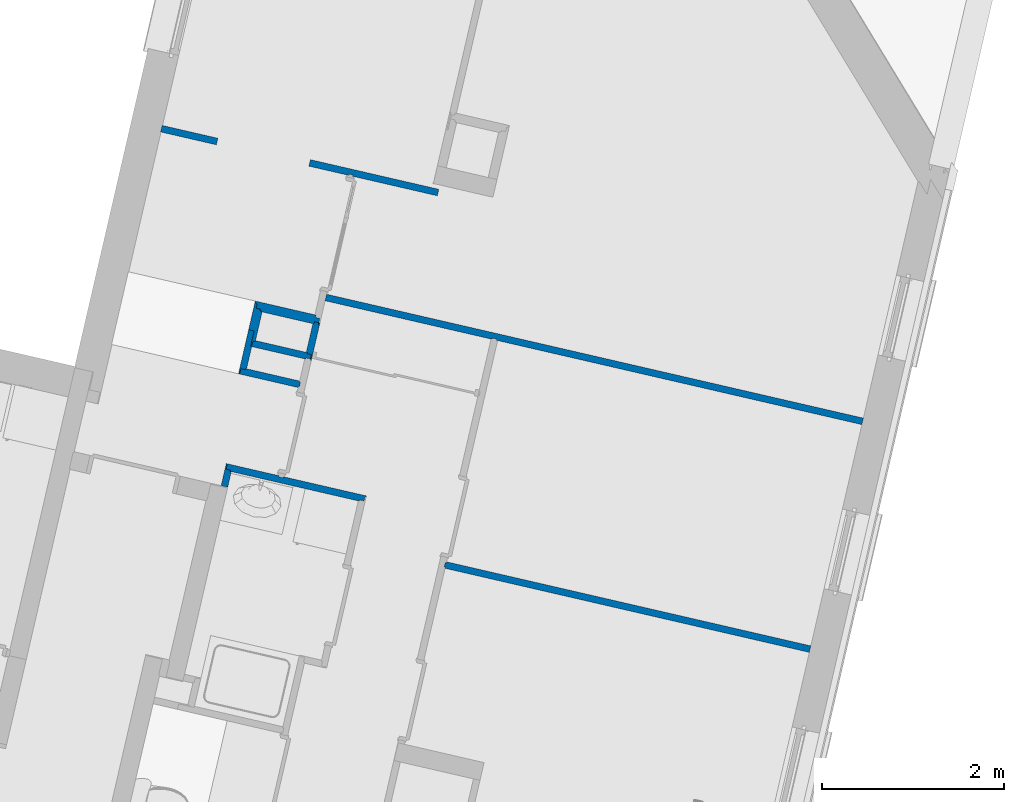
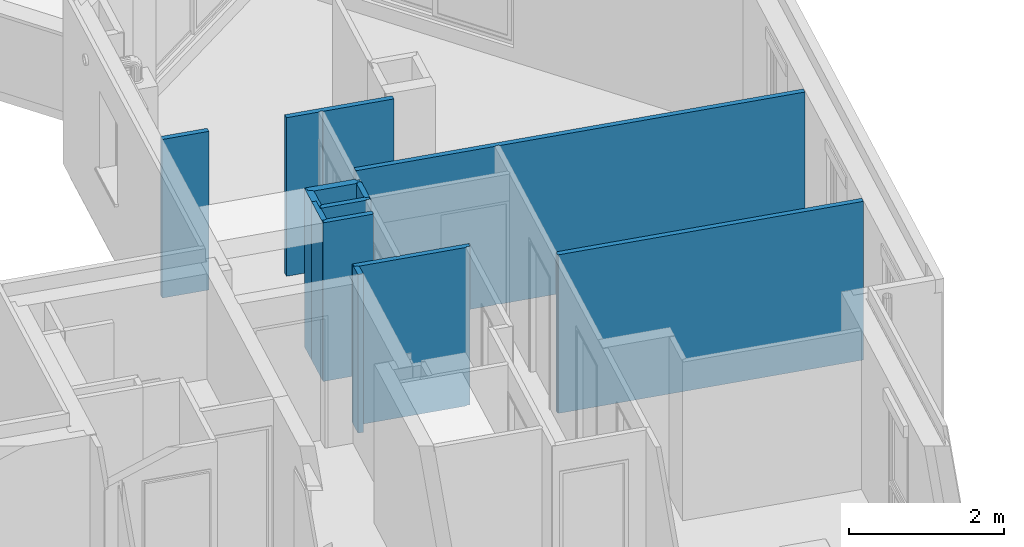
# One storey, part 48 of 91: 12 walls.
"""IFC2X3 building model written with IfcOpenShell, lengths in metres."""

from ifc_helpers import new_model, entity, si_unit, converted_unit, derived_unit, money_unit, direction, frame, origin_with_axes, place, context, subcontext, project, spatial, faceted_brep, material, material_list, type_object, element, save


model = new_model("IFC2X3")

# Units and contexts
model_context = context("Model", 3, precision=1e-05, world=origin_with_axes(), true_north=direction((0.0, 1.0)))
body_context = subcontext(model_context, "Body", "Model", "MODEL_VIEW")
ifc_project = project(units=[si_unit("LENGTHUNIT", "METRE"), si_unit("AREAUNIT", "SQUARE_METRE"), si_unit("VOLUMEUNIT", "CUBIC_METRE"), converted_unit("PLANEANGLEUNIT", "DEGREE", entity("IfcPlaneAngleMeasure", 0.0174532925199), si_unit("PLANEANGLEUNIT", "RADIAN"), dimensions=[0, 0, 0, 0, 0, 0, 0]), si_unit("SOLIDANGLEUNIT", "STERADIAN"), money_unit("EUR"), converted_unit("TIMEUNIT", "Year", entity("IfcTimeMeasure", 31556926.0), si_unit("TIMEUNIT", "SECOND"), dimensions=[0, 0, 1, 0, 0, 0, 0]), si_unit("MASSUNIT", "GRAM", prefix="KILO"), si_unit("THERMODYNAMICTEMPERATUREUNIT", "DEGREE_CELSIUS"), si_unit("LUMINOUSINTENSITYUNIT", "LUMEN"), si_unit("ENERGYUNIT", "JOULE", prefix="MEGA"), derived_unit("THERMALCONDUCTANCEUNIT", [(si_unit("POWERUNIT", "WATT"), 1), (si_unit("LENGTHUNIT", "METRE"), -1), (si_unit("THERMODYNAMICTEMPERATUREUNIT", "KELVIN"), -1)]), derived_unit("SPECIFICHEATCAPACITYUNIT", [(si_unit("ENERGYUNIT", "JOULE"), 1), (si_unit("MASSUNIT", "GRAM", prefix="KILO"), -1), (si_unit("THERMODYNAMICTEMPERATUREUNIT", "KELVIN"), -1)]), derived_unit("MASSDENSITYUNIT", [(si_unit("MASSUNIT", "GRAM", prefix="KILO"), 1), (si_unit("VOLUMEUNIT", "CUBIC_METRE"), -1)])], contexts=[model_context])

# Site, building, storey
site_placement = place(None, origin_with_axes())
site = spatial("IfcSite", under=ifc_project, at=site_placement, Name="Site", CompositionType="ELEMENT")
building_placement = place(site_placement, origin_with_axes())
building = spatial("IfcBuilding", under=site, at=building_placement, Name="Bâtiment", CompositionType="ELEMENT")
storey_placement = place(building_placement, frame((0.0, 0.0, 5.44), z_axis=(0.0, 0.0, 1.0), x_axis=(1.0, 0.0, 0.0)))
storey = spatial("IfcBuildingStorey", under=building, at=storey_placement, Name="R+2", CompositionType="ELEMENT", Elevation=5.44)

# Walls
ifc_material_1 = material(Name="Finition int - Plaque de plâtre")
ifc_material_2 = material(Name="Isolation - Laine de roche")
ifc_material_list_1 = material_list([ifc_material_1, ifc_material_2, ifc_material_1])
wall_type_1 = type_object("IfcWallType", Name="3 - Cloison 72mm Placostil 74", PredefinedType="USERDEFINED")
wall_1_placement = place(storey_placement, frame((-5.55303334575, 12.3719555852, 0.0), z_axis=(0.0, 0.0, 1.0), x_axis=(-0.224876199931, -0.97438734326, 0.0)))
element("IfcWall", 1, at=wall_1_placement, inside=storey, type_object=wall_type_1, material=ifc_material_list_1, Name="Cloison Placostil 72/48", ObjectType="PARTITIONING", context=body_context, shape_type="Brep", body=[
    faceted_brep([(0.485000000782, 0.074, 0.0), (0.0999999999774, 0.074, 0.0), (0.0999999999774, 0.074, 2.5), (0.485000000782, 0.074, 2.5), (0.48500000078, 0.061, 0.0), (0.0999999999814, 0.061, 0.0), (0.0999999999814, 0.061, 2.5), (0.48500000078, 0.061, 2.5)], [[[0, 1, 2, 3]], [[4, 5, 1, 0]], [[5, 6, 2, 1]], [[3, 2, 6, 7]], [[3, 7, 4, 0]], [[7, 6, 5, 4]]]),
    faceted_brep([(0.43700000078, 0.061, 0.0), (0.0739999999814, 0.061, 0.0), (0.0739999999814, 0.061, 2.5), (0.43700000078, 0.061, 2.5), (0.43700000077, 0.013, 0.0), (0.073999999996, 0.013, 0.0), (0.073999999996, 0.013, 2.5), (0.43700000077, 0.013, 2.5)], [[[0, 1, 2, 3]], [[4, 5, 1, 0]], [[5, 6, 2, 1]], [[3, 2, 6, 7]], [[3, 7, 4, 0]], [[7, 6, 5, 4]]]),
    faceted_brep([(0.42400000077, 0.013, 0.0), (0.099999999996, 0.013, 0.0), (0.099999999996, 0.013, 2.5), (0.42400000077, 0.013, 2.5), (0.424000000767, 0.0, 0.0), (0.1, 0.0, 0.0), (0.1, 0.0, 2.5), (0.424000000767, 0.0, 2.5)], [[[0, 1, 2, 3]], [[4, 5, 1, 0]], [[5, 6, 2, 1]], [[3, 2, 6, 7]], [[3, 7, 4, 0]], [[7, 6, 5, 4]]]),
])
wall_2_placement = place(storey_placement, frame((-4.98673674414, 10.3780735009, 0.0), z_axis=(0.0, 0.0, 1.0), x_axis=(-0.974387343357, 0.224876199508, 0.0)))
element("IfcWall", 2, at=wall_2_placement, inside=storey, type_object=wall_type_1, material=ifc_material_list_1, Name="Cloison Placostil 72/48", ObjectType="PARTITIONING", context=body_context, shape_type="Brep", body=[
    faceted_brep([(1.52239051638, 0.074, 0.0), (1.52239051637, 0.061, 0.0), (0.0610000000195, 0.061, 0.0), (0.0610000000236, 0.074, 0.0), (1.52239051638, 0.074, 2.5), (1.52239051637, 0.061, 2.5), (0.0610000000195, 0.061, 2.5), (0.0610000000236, 0.074, 2.5)], [[[0, 1, 2, 3]], [[1, 0, 4, 5]], [[1, 5, 6, 2]], [[7, 3, 2, 6]], [[4, 0, 3, 7]], [[5, 4, 7, 6]]]),
    faceted_brep([(1.57039051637, 0.061, 0.0), (1.57039051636, 0.013, 0.0), (0.0130000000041, 0.013, 0.0), (0.0130000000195, 0.061, 0.0), (1.57039051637, 0.061, 2.5), (1.57039051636, 0.013, 2.5), (0.0130000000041, 0.013, 2.5), (0.0130000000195, 0.061, 2.5)], [[[0, 1, 2, 3]], [[1, 0, 4, 5]], [[1, 5, 6, 2]], [[7, 3, 2, 6]], [[4, 0, 3, 7]], [[5, 4, 7, 6]]]),
    faceted_brep([(0.939168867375, 0.013, 0.0), (0.93916886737, 0.0, 0.0), (0.0, 0.0, 0.0), (0.0, 0.013, 0.0), (0.939168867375, 0.013, 2.5), (0.93916886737, 0.0, 2.5), (0.0, 0.0, 2.5), (0.0, 0.013, 2.5)], [[[0, 1, 2, 3]], [[1, 0, 4, 5]], [[1, 5, 6, 2]], [[7, 3, 2, 6]], [[4, 0, 3, 7]], [[5, 4, 7, 6]]]),
    faceted_brep([(1.58339051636, 0.013, 0.0), (1.58339051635, 0.0, 0.0), (0.98716886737, 0.0, 0.0), (0.987168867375, 0.013, 0.0), (1.58339051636, 0.013, 2.5), (1.58339051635, 0.0, 2.5), (0.98716886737, 0.0, 2.5), (0.987168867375, 0.013, 2.5)], [[[0, 1, 2, 3]], [[1, 0, 4, 5]], [[1, 5, 6, 2]], [[7, 3, 2, 6]], [[4, 0, 3, 7]], [[5, 4, 7, 6]]]),
])
wall_3_placement = place(storey_placement, frame((-6.39445410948, 11.7225377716, 0.0), z_axis=(0.0, 0.0, 1.0), x_axis=(0.224876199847, 0.974387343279, 0.0)))
element("IfcWall", 3, at=wall_3_placement, inside=storey, type_object=wall_type_1, material=ifc_material_list_1, Name="Cloison Placostil 72/48", ObjectType="PARTITIONING", context=body_context, shape_type="Brep", body=[
    faceted_brep([(0.49800000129, 0.0, 2.5), (0.013, 0.0, 2.5), (0.0130000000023, -0.013, 2.5), (0.49800000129, -0.013, 2.5), (0.49800000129, 0.0, 0.0), (0.013, 0.0, 0.0), (0.0130000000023, -0.013, 0.0), (0.49800000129, -0.013, 0.0)], [[[0, 1, 2, 3]], [[4, 5, 1, 0]], [[6, 2, 1, 5]], [[3, 2, 6, 7]], [[7, 4, 0, 3]], [[7, 6, 5, 4]]]),
    faceted_brep([(0.49800000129, -0.013, 2.5), (0.0610000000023, -0.013, 2.5), (0.061000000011, -0.061, 2.5), (0.49800000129, -0.061, 2.5), (0.49800000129, -0.013, 0.0), (0.0610000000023, -0.013, 0.0), (0.061000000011, -0.061, 0.0), (0.49800000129, -0.061, 0.0)], [[[0, 1, 2, 3]], [[4, 5, 1, 0]], [[6, 2, 1, 5]], [[3, 2, 6, 7]], [[7, 4, 0, 3]], [[7, 6, 5, 4]]]),
    faceted_brep([(0.0740000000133, -0.074, 0.0), (0.324000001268, -0.0739999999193, 0.0), (0.324000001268, -0.0739999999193, 2.5), (0.0740000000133, -0.074, 2.5), (0.074000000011, -0.061, 0.0), (0.324000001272, -0.061, 0.0), (0.324000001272, -0.061, 2.5), (0.074000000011, -0.061, 2.5)], [[[0, 1, 2, 3]], [[4, 5, 1, 0]], [[5, 6, 2, 1]], [[3, 2, 6, 7]], [[0, 3, 7, 4]], [[7, 6, 5, 4]]]),
])
wall_4_placement = place(storey_placement, frame((-5.73788158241, 11.5710091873, 0.0), z_axis=(0.0, 0.0, 1.0), x_axis=(-0.974387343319, 0.224876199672, 0.0)))
element("IfcWall", 4, at=wall_4_placement, inside=storey, type_object=wall_type_1, material=ifc_material_list_1, Name="Cloison Placostil 72/48", ObjectType="PARTITIONING", context=body_context, shape_type="Brep", body=[
    faceted_brep([(0.673831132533, -0.013, 2.5), (0.673831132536, 0.0, 2.5), (0.0, 0.0, 2.5), (0.0, -0.013, 2.5), (0.673831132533, -0.013, 0.0), (0.673831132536, 0.0, 0.0), (0.0, 0.0, 0.0), (0.0, -0.013, 0.0)], [[[0, 1, 2, 3]], [[1, 0, 4, 5]], [[1, 5, 6, 2]], [[7, 3, 2, 6]], [[4, 0, 3, 7]], [[5, 4, 7, 6]]]),
    faceted_brep([(0.660831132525, -0.061, 2.5), (0.660831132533, -0.013, 2.5), (-0.0129999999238, -0.013, 2.5), (-0.0129999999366, -0.061, 2.5), (0.660831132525, -0.061, 0.0), (0.660831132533, -0.013, 0.0), (-0.0129999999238, -0.013, 0.0), (-0.0129999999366, -0.061, 0.0)], [[[0, 1, 2, 3]], [[1, 0, 4, 5]], [[1, 5, 6, 2]], [[7, 3, 2, 6]], [[4, 0, 3, 7]], [[5, 4, 7, 6]]]),
    faceted_brep([(0.612831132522, -0.074, 2.5), (0.612831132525, -0.061, 2.5), (0.0, -0.061, 2.5), (0.0, -0.074, 2.5), (0.612831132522, -0.074, 0.0), (0.612831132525, -0.061, 0.0), (0.0, -0.061, 0.0), (0.0, -0.074, 0.0)], [[[0, 1, 2, 3]], [[1, 0, 4, 5]], [[1, 5, 6, 2]], [[7, 3, 2, 6]], [[4, 0, 3, 7]], [[5, 4, 7, 6]]]),
])
wall_5_placement = place(storey_placement, frame((-6.51368680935, 10.4739026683, 0.0), z_axis=(0.0, 0.0, 1.0), x_axis=(0.224876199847, 0.974387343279, 0.0)))
element("IfcWall", 5, at=wall_5_placement, inside=storey, type_object=wall_type_1, material=ifc_material_list_1, Name="Cloison Placostil 72/48", ObjectType="PARTITIONING", context=body_context, shape_type="Brep", body=[
    faceted_brep([(0.236999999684, 0.074, 0.0), (0.236999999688, 0.061, 0.0), (0.0, 0.061, 0.0), (0.0, 0.074, 0.0), (0.236999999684, 0.074, 2.5), (0.236999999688, 0.061, 2.5), (0.0, 0.061, 2.5), (0.0, 0.074, 2.5)], [[[0, 1, 2, 3]], [[1, 0, 4, 5]], [[1, 5, 6, 2]], [[7, 3, 2, 6]], [[4, 0, 3, 7]], [[5, 4, 7, 6]]]),
    faceted_brep([(0.188999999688, 0.061, 0.0), (0.188999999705, 0.013, 0.0), (0.0, 0.013, 0.0), (0.0, 0.061, 0.0), (0.188999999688, 0.061, 2.5), (0.188999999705, 0.013, 2.5), (0.0, 0.013, 2.5), (0.0, 0.061, 2.5)], [[[0, 1, 2, 3]], [[1, 0, 4, 5]], [[1, 5, 6, 2]], [[7, 3, 2, 6]], [[4, 0, 3, 7]], [[5, 4, 7, 6]]]),
    faceted_brep([(0.175999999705, 0.013, 0.0), (0.175999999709, 0.0, 0.0), (0.0, 0.0, 0.0), (0.0, 0.013, 0.0), (0.175999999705, 0.013, 2.5), (0.175999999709, 0.0, 2.5), (0.0, 0.0, 2.5), (0.0, 0.013, 2.5)], [[[0, 1, 2, 3]], [[1, 0, 4, 5]], [[1, 5, 6, 2]], [[7, 3, 2, 6]], [[4, 0, 3, 7]], [[5, 4, 7, 6]]]),
])
wall_6_placement = place(storey_placement, frame((-5.42470963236, 12.5989115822, 0.0), z_axis=(0.0, 0.0, 1.0), x_axis=(0.974387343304, -0.224876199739, 0.0)))
element("IfcWall", 6, at=wall_6_placement, inside=storey, type_object=wall_type_1, material=ifc_material_list_1, Name="Cloison Placostil 72/48", ObjectType="PARTITIONING", context=body_context, shape_type="Brep", body=[
    faceted_brep([(0.0, -0.013, 2.5), (6.06716887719, -0.013, 2.5), (6.06716887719, 0.0, 2.5), (0.0, 0.0, 2.5), (0.0, -0.013, 0.0), (6.06716887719, -0.013, 0.0), (6.06716887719, 0.0, 0.0), (0.0, 0.0, 0.0)], [[[0, 1, 2, 3]], [[4, 5, 1, 0]], [[2, 1, 5, 6]], [[3, 2, 6, 7]], [[4, 0, 3, 7]], [[7, 6, 5, 4]]]),
    faceted_brep([(0.0, -0.061, 2.5), (6.06716887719, -0.061, 2.5), (6.06716887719, -0.013, 2.5), (0.0, -0.013, 2.5), (0.0, -0.061, 0.0), (6.06716887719, -0.061, 0.0), (6.06716887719, -0.013, 0.0), (0.0, -0.013, 0.0)], [[[0, 1, 2, 3]], [[4, 5, 1, 0]], [[2, 1, 5, 6]], [[3, 2, 6, 7]], [[4, 0, 3, 7]], [[7, 6, 5, 4]]]),
    faceted_brep([(1.93689389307, -0.074, 2.5), (6.06716887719, -0.074, 2.5), (6.06716887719, -0.061, 2.5), (1.93689389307, -0.061, 2.5), (1.93689389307, -0.074, 0.0), (6.06716887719, -0.074, 0.0), (6.06716887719, -0.061, 0.0), (1.93689389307, -0.061, 0.0)], [[[0, 1, 2, 3]], [[4, 5, 1, 0]], [[2, 1, 5, 6]], [[3, 2, 6, 7]], [[4, 0, 3, 7]], [[7, 6, 5, 4]]]),
    faceted_brep([(1.88889389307, -0.074, 2.5), (1.88889389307, -0.061, 2.5), (0.0, -0.061, 2.5), (0.0, -0.074, 2.5), (1.88889389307, -0.074, 0.0), (1.88889389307, -0.061, 0.0), (0.0, -0.061, 0.0), (0.0, -0.074, 0.0)], [[[0, 1, 2, 3]], [[1, 0, 4, 5]], [[1, 5, 6, 2]], [[7, 3, 2, 6]], [[4, 0, 3, 7]], [[5, 4, 7, 6]]]),
])
wall_7_placement = place(storey_placement, frame((-0.0917684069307, 8.72647668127, 0.0), z_axis=(0.0, 0.0, 1.0), x_axis=(-0.974387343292, 0.224876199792, 0.0)))
element("IfcWall", 7, at=wall_7_placement, inside=storey, type_object=wall_type_1, material=ifc_material_list_1, Name="Cloison Placostil 72/48", ObjectType="PARTITIONING", context=body_context, shape_type="Brep", body=[
    faceted_brep([(4.11727498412, 0.074, 0.0), (4.11727498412, 0.061, 0.0), (0.0, 0.061, 0.0), (0.0, 0.074, 0.0), (4.11727498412, 0.074, 2.5), (4.11727498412, 0.061, 2.5), (0.0, 0.061, 2.5), (0.0, 0.074, 2.5)], [[[0, 1, 2, 3]], [[1, 0, 4, 5]], [[1, 5, 6, 2]], [[7, 3, 2, 6]], [[4, 0, 3, 7]], [[5, 4, 7, 6]]]),
    faceted_brep([(4.13027498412, 0.061, 0.0), (4.13027498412, 0.013, 0.0), (0.0, 0.013, 0.0), (0.0, 0.061, 0.0), (4.13027498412, 0.061, 2.5), (4.13027498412, 0.013, 2.5), (0.0, 0.013, 2.5), (0.0, 0.061, 2.5)], [[[0, 1, 2, 3]], [[1, 0, 4, 5]], [[1, 5, 6, 2]], [[7, 3, 2, 6]], [[4, 0, 3, 7]], [[5, 4, 7, 6]]]),
    faceted_brep([(4.11727498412, 0.013, 0.0), (4.11727498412, 0.0, 0.0), (0.0, 0.0, 0.0), (0.0, 0.013, 0.0), (4.11727498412, 0.013, 2.5), (4.11727498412, 0.0, 2.5), (0.0, 0.0, 2.5), (0.0, 0.013, 2.5)], [[[0, 1, 2, 3]], [[1, 0, 4, 5]], [[1, 5, 6, 2]], [[7, 3, 2, 6]], [[4, 0, 3, 7]], [[5, 4, 7, 6]]]),
])
wall_8_placement = place(storey_placement, frame((-4.20528016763, 13.6824430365, 0.0), z_axis=(0.0, 0.0, 1.0), x_axis=(-0.974387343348, 0.224876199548, 0.0)))
element("IfcWall", 8, at=wall_8_placement, inside=storey, type_object=wall_type_1, material=ifc_material_list_1, Name="Cloison Placostil 72/48", ObjectType="PARTITIONING", context=body_context, shape_type="Brep", body=[
    faceted_brep([(0.957536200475, -0.013, 2.5), (0.95753620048, 0.0, 2.5), (0.0, 0.0, 2.5), (0.0, -0.013, 2.5), (0.957536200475, -0.013, 0.0), (0.95753620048, 0.0, 0.0), (0.0, 0.0, 0.0), (0.0, -0.013, 0.0)], [[[0, 1, 2, 3]], [[1, 0, 4, 5]], [[1, 5, 6, 2]], [[7, 3, 2, 6]], [[4, 0, 3, 7]], [[5, 4, 7, 6]]]),
    faceted_brep([(1.00553620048, -0.013, 2.5), (1.45159134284, -0.013, 2.5), (1.45159134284, 0.0, 2.5), (1.00553620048, 0.0, 2.5), (1.00553620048, -0.013, 0.0), (1.45159134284, -0.013, 0.0), (1.45159134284, 0.0, 0.0), (1.00553620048, 0.0, 0.0)], [[[0, 1, 2, 3]], [[4, 5, 1, 0]], [[2, 1, 5, 6]], [[3, 2, 6, 7]], [[4, 0, 3, 7]], [[7, 6, 5, 4]]]),
    faceted_brep([(0.0, -0.061, 2.5), (1.45159134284, -0.061, 2.5), (1.45159134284, -0.013, 2.5), (0.0, -0.013, 2.5), (0.0, -0.061, 0.0), (1.45159134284, -0.061, 0.0), (1.45159134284, -0.013, 0.0), (0.0, -0.013, 0.0)], [[[0, 1, 2, 3]], [[4, 5, 1, 0]], [[2, 1, 5, 6]], [[3, 2, 6, 7]], [[4, 0, 3, 7]], [[7, 6, 5, 4]]]),
    faceted_brep([(0.0, -0.074, 2.5), (1.45159134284, -0.074, 2.5), (1.45159134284, -0.061, 2.5), (0.0, -0.061, 2.5), (0.0, -0.074, 0.0), (1.45159134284, -0.074, 0.0), (1.45159134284, -0.061, 0.0), (0.0, -0.061, 0.0)], [[[0, 1, 2, 3]], [[4, 5, 1, 0]], [[2, 1, 5, 6]], [[3, 2, 6, 7]], [[4, 0, 3, 7]], [[7, 6, 5, 4]]]),
])
wall_9_placement = place(storey_placement, frame((-6.63906380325, 14.2441293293, 0.0), z_axis=(0.0, 0.0, 1.0), x_axis=(-0.974387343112, 0.224876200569, 0.0)))
element("IfcWall", 9, at=wall_9_placement, inside=storey, type_object=wall_type_1, material=ifc_material_list_1, Name="Cloison Placostil 72/48", ObjectType="PARTITIONING", context=body_context, shape_type="Brep", body=[
    faceted_brep([(0.0, -0.013, 2.5), (0.629999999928, -0.013, 2.5), (0.629999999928, 0.0, 2.5), (0.0, 0.0, 2.5), (0.0, -0.013, 0.0), (0.629999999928, -0.013, 0.0), (0.629999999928, 0.0, 0.0), (0.0, 0.0, 0.0)], [[[0, 1, 2, 3]], [[4, 5, 1, 0]], [[2, 1, 5, 6]], [[3, 2, 6, 7]], [[4, 0, 3, 7]], [[7, 6, 5, 4]]]),
    faceted_brep([(0.0, -0.061, 2.5), (0.629999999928, -0.061, 2.5), (0.629999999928, -0.013, 2.5), (0.0, -0.013, 2.5), (0.0, -0.061, 0.0), (0.629999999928, -0.061, 0.0), (0.629999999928, -0.013, 0.0), (0.0, -0.013, 0.0)], [[[0, 1, 2, 3]], [[4, 5, 1, 0]], [[2, 1, 5, 6]], [[3, 2, 6, 7]], [[4, 0, 3, 7]], [[7, 6, 5, 4]]]),
    faceted_brep([(0.0, -0.074, 2.5), (0.629999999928, -0.074, 2.5), (0.629999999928, -0.061, 2.5), (0.0, -0.061, 2.5), (0.0, -0.074, 0.0), (0.629999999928, -0.074, 0.0), (0.629999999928, -0.061, 0.0), (0.0, -0.061, 0.0)], [[[0, 1, 2, 3]], [[4, 5, 1, 0]], [[2, 1, 5, 6]], [[3, 2, 6, 7]], [[4, 0, 3, 7]], [[7, 6, 5, 4]]]),
])
wall_type_2 = type_object("IfcWallType", Name="3 - Cloison Gaine Technique 72mm 74", PredefinedType="USERDEFINED")
wall_10_placement = place(storey_placement, frame((-5.66502169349, 11.8867106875, 0.0), z_axis=(0.0, 0.0, 1.0), x_axis=(-0.974387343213, 0.224876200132, 0.0)))
element("IfcWall", 10, at=wall_10_placement, inside=storey, type_object=wall_type_2, material=ifc_material_list_1, Name="Cloison Placostil 72/48", ObjectType="PARTITIONING", context=body_context, shape_type="Brep", body=[
    faceted_brep([(0.612831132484, 0.0, 2.5), (-0.013, 0.0, 2.5), (-0.0129999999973, -0.013, 2.5), (0.612831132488, -0.013, 2.5), (0.612831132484, 0.0, 0.0), (-0.013, 0.0, 0.0), (-0.0129999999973, -0.013, 0.0), (0.612831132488, -0.013, 0.0)], [[[0, 1, 2, 3]], [[4, 5, 1, 0]], [[5, 6, 2, 1]], [[3, 2, 6, 7]], [[4, 0, 3, 7]], [[7, 6, 5, 4]]]),
    faceted_brep([(-0.0739999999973, -0.013, 0.0), (-0.0609999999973, -0.013, 0.0), (-0.0609999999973, -0.013, 2.5), (-0.0739999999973, -0.013, 2.5), (-0.074, 0.0, 0.0), (-0.061, 0.0, 0.0), (-0.061, 0.0, 2.5), (-0.074, 0.0, 2.5)], [[[0, 1, 2, 3]], [[4, 5, 1, 0]], [[5, 6, 2, 1]], [[3, 2, 6, 7]], [[4, 0, 3, 7]], [[7, 6, 5, 4]]]),
    faceted_brep([(-0.0609999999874, -0.061, 2.5), (0.599831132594, -0.061, 2.5), (0.599831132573, -0.013, 2.5), (-0.0609999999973, -0.013, 2.5), (-0.0609999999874, -0.061, 0.0), (0.599831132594, -0.061, 0.0), (0.599831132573, -0.013, 0.0), (-0.0609999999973, -0.013, 0.0)], [[[0, 1, 2, 3]], [[4, 5, 1, 0]], [[6, 2, 1, 5]], [[3, 2, 6, 7]], [[7, 4, 0, 3]], [[7, 6, 5, 4]]]),
    faceted_brep([(-0.0129999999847, -0.074, 2.5), (0.5738311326, -0.074, 2.5), (0.573831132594, -0.061, 2.5), (-0.0129999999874, -0.061, 2.5), (-0.0129999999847, -0.074, 0.0), (0.5738311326, -0.074, 0.0), (0.573831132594, -0.061, 0.0), (-0.0129999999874, -0.061, 0.0)], [[[0, 1, 2, 3]], [[4, 5, 1, 0]], [[6, 2, 1, 5]], [[3, 2, 6, 7]], [[7, 4, 0, 3]], [[7, 6, 5, 4]]]),
])
ifc_material_list_2 = material_list([ifc_material_1, ifc_material_1, ifc_material_2, ifc_material_1, ifc_material_1])
wall_type_3 = type_object("IfcWallType", Name="3 - Cloison Gaine Technique 98mm 100", PredefinedType="USERDEFINED")
wall_11_placement = place(storey_placement, frame((-6.20960587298, 12.5234841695, 0.0), z_axis=(0.0, 0.0, 1.0), x_axis=(0.974387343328, -0.224876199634, 0.0)))
element("IfcWall", 11, at=wall_11_placement, inside=storey, type_object=wall_type_3, material=ifc_material_list_2, Name="Cloison 98 isolée", ObjectType="PARTITIONING", context=body_context, shape_type="Brep", body=[
    faceted_brep([(0.686831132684, -0.013, 2.5), (0.686831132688, 0.0, 2.5), (0.0, 0.0, 2.5), (0.0, -0.013, 2.5), (0.686831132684, -0.013, 0.0), (0.686831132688, 0.0, 0.0), (0.0, 0.0, 0.0), (0.0, -0.013, 0.0)], [[[0, 1, 2, 3]], [[1, 0, 4, 5]], [[1, 5, 6, 2]], [[7, 3, 2, 6]], [[4, 0, 3, 7]], [[5, 4, 7, 6]]]),
    faceted_brep([(0.68683113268, -0.026, 2.5), (0.686831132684, -0.013, 2.5), (0.0129999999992, -0.013, 2.5), (0.0129999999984, -0.026, 2.5), (0.68683113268, -0.026, 0.0), (0.686831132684, -0.013, 0.0), (0.0129999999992, -0.013, 0.0), (0.0129999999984, -0.026, 0.0)], [[[0, 1, 2, 3]], [[1, 0, 4, 5]], [[1, 5, 6, 2]], [[7, 3, 2, 6]], [[4, 0, 3, 7]], [[5, 4, 7, 6]]]),
    faceted_brep([(0.0259999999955, -0.074, 2.5), (0.734831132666, -0.074, 2.5), (0.73483113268, -0.026, 2.5), (0.0259999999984, -0.026, 2.5), (0.0259999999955, -0.074, 0.0), (0.734831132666, -0.074, 0.0), (0.73483113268, -0.026, 0.0), (0.0259999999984, -0.026, 0.0)], [[[0, 1, 2, 3]], [[4, 5, 1, 0]], [[6, 2, 1, 5]], [[3, 2, 6, 7]], [[7, 4, 0, 3]], [[7, 6, 5, 4]]]),
    faceted_brep([(0.0739999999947, -0.087, 2.5), (0.686831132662, -0.087, 2.5), (0.686831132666, -0.074, 2.5), (0.0739999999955, -0.074, 2.5), (0.0739999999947, -0.087, 0.0), (0.686831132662, -0.087, 0.0), (0.686831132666, -0.074, 0.0), (0.0739999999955, -0.074, 0.0)], [[[0, 1, 2, 3]], [[4, 5, 1, 0]], [[5, 6, 2, 1]], [[3, 2, 6, 7]], [[7, 4, 0, 3]], [[7, 6, 5, 4]]]),
    faceted_brep([(0.747831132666, -0.074, 0.0), (0.734831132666, -0.074, 0.0), (0.734831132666, -0.074, 2.5), (0.747831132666, -0.074, 2.5), (0.747831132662, -0.087, 0.0), (0.734831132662, -0.087, 0.0), (0.734831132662, -0.087, 2.5), (0.747831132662, -0.087, 2.5)], [[[0, 1, 2, 3]], [[4, 5, 1, 0]], [[5, 6, 2, 1]], [[3, 2, 6, 7]], [[0, 3, 7, 4]], [[7, 6, 5, 4]]]),
    faceted_brep([(0.0869999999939, -0.1, 2.5), (0.686831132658, -0.1, 2.5), (0.686831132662, -0.087, 2.5), (0.0869999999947, -0.087, 2.5), (0.0869999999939, -0.1, 0.0), (0.686831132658, -0.1, 0.0), (0.686831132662, -0.087, 0.0), (0.0869999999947, -0.087, 0.0)], [[[0, 1, 2, 3]], [[4, 5, 1, 0]], [[5, 6, 2, 1]], [[3, 2, 6, 7]], [[7, 4, 0, 3]], [[7, 6, 5, 4]]]),
    faceted_brep([(0.747831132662, -0.087, 0.0), (0.734831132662, -0.087, 0.0), (0.734831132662, -0.087, 2.5), (0.747831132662, -0.087, 2.5), (0.747831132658, -0.1, 0.0), (0.734831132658, -0.1, 0.0), (0.734831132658, -0.1, 2.5), (0.747831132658, -0.1, 2.5)], [[[0, 1, 2, 3]], [[4, 5, 1, 0]], [[5, 6, 2, 1]], [[3, 2, 6, 7]], [[0, 3, 7, 4]], [[7, 6, 5, 4]]]),
])
wall_12_placement = place(storey_placement, frame((-6.20960587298, 12.5234841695, 0.0), z_axis=(0.0, 0.0, 1.0), x_axis=(-0.224876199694, -0.974387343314, 0.0)))
element("IfcWall", 12, at=wall_12_placement, inside=storey, type_object=wall_type_3, material=ifc_material_list_2, Name="Cloison 98 isolée", ObjectType="PARTITIONING", context=body_context, shape_type="Brep", body=[
    faceted_brep([(0.0999999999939, 0.1, 0.0), (0.437000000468, 0.1, 0.0), (0.437000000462, 0.087, 0.0), (0.0999999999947, 0.087, 0.0), (0.0999999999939, 0.1, 2.5), (0.437000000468, 0.1, 2.5), (0.437000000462, 0.087, 2.5), (0.0999999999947, 0.087, 2.5)], [[[0, 1, 2, 3]], [[4, 5, 1, 0]], [[6, 2, 1, 5]], [[3, 2, 6, 7]], [[7, 4, 0, 3]], [[7, 6, 5, 4]]]),
    faceted_brep([(0.0869999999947, 0.087, 0.0), (0.437000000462, 0.087, 0.0), (0.437000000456, 0.074, 0.0), (0.0869999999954, 0.074, 0.0), (0.0869999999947, 0.087, 2.5), (0.437000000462, 0.087, 2.5), (0.437000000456, 0.074, 2.5), (0.0869999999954, 0.074, 2.5)], [[[0, 1, 2, 3]], [[4, 5, 1, 0]], [[6, 2, 1, 5]], [[3, 2, 6, 7]], [[7, 4, 0, 3]], [[7, 6, 5, 4]]]),
    faceted_brep([(0.324000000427, 0.026, 2.5), (0.324000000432, 0.0610000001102, 2.5), (0.48500000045, 0.0610000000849, 2.5), (0.485000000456, 0.074, 2.5), (0.0739999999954, 0.074, 2.5), (0.0739999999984, 0.026, 2.5), (0.324000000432, 0.0610000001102, 0.0), (0.324000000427, 0.026, 0.0), (0.48500000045, 0.0610000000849, 0.0), (0.485000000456, 0.074, 0.0), (0.0739999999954, 0.074, 0.0), (0.0739999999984, 0.026, 0.0)], [[[0, 1, 2, 3, 4, 5]], [[6, 1, 0, 7]], [[8, 2, 1, 6]], [[3, 2, 8, 9]], [[4, 3, 9, 10]], [[5, 4, 10, 11]], [[11, 7, 0, 5]], [[8, 6, 7, 11, 10, 9]]]),
    faceted_brep([(0.0259999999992, 0.013, 2.5), (0.324000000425, 0.0130000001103, 2.5), (0.324000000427, 0.026, 2.5), (0.0259999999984, 0.026, 2.5), (0.0259999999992, 0.013, 0.0), (0.324000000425, 0.0130000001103, 0.0), (0.324000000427, 0.026, 0.0), (0.0259999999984, 0.026, 0.0)], [[[0, 1, 2, 3]], [[4, 5, 1, 0]], [[5, 6, 2, 1]], [[3, 2, 6, 7]], [[0, 3, 7, 4]], [[7, 6, 5, 4]]]),
    faceted_brep([(0.013, 0.0, 2.5), (0.324000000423, 1.10249587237e-10, 2.5), (0.324000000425, 0.0130000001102, 2.5), (0.0129999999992, 0.013, 2.5), (0.013, 0.0, 0.0), (0.324000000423, 1.10249587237e-10, 0.0), (0.324000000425, 0.0130000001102, 0.0), (0.0129999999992, 0.013, 0.0)], [[[0, 1, 2, 3]], [[4, 5, 1, 0]], [[5, 6, 2, 1]], [[3, 2, 6, 7]], [[0, 3, 7, 4]], [[7, 6, 5, 4]]]),
])

save(model, "model.ifc")
